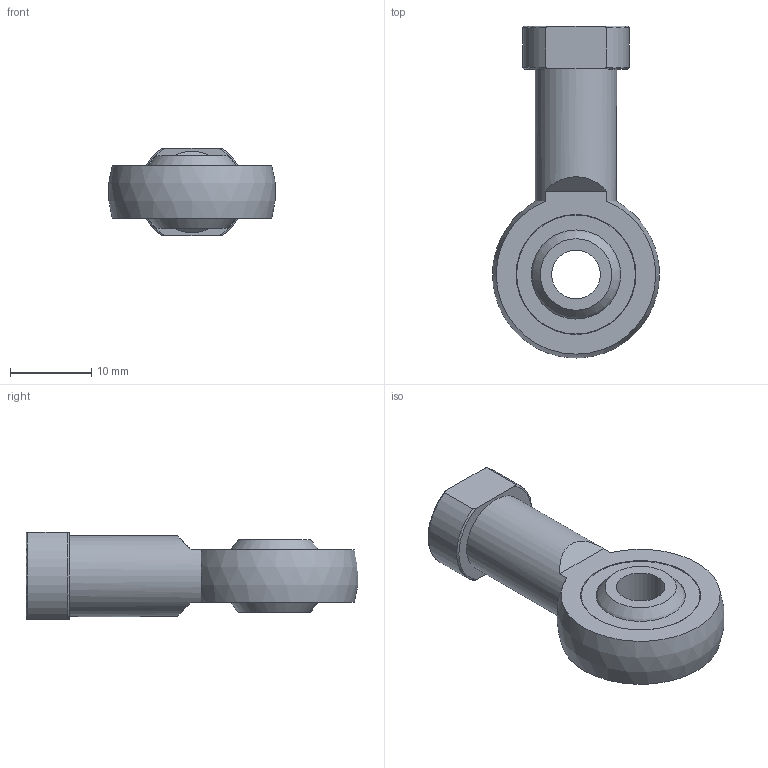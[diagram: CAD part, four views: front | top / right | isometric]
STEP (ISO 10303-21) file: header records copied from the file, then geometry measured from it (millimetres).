
FILE_DESCRIPTION(/* description */ (''),/* implementation_level */ '2;1');
FILE_NAME(/* name */ 'LAOAA-M6.step',/* time_stamp */ '2020-05-27T11:05:43+02:00',/* author */ ('octogon GmbH'),/* organization */ ('octogon GmbH'),/* preprocessor_version */ 'ST-DEVELOPER v15.6',/* originating_system */ 'Autodesk Inventor LT ',/* authorisation */ '');
FILE_SCHEMA (('AUTOMOTIVE_DESIGN { 1 0 10303 214 3 1 1 }'));
Length unit declared in the file: millimetre
Products named in the file (1): LAOAA-M6 rod end, stainless steel, female thread M6
Bounding box: 20.58 x 40.94 x 10.8 mm (x, y, z)
Volume: 3743.1 mm3; surface area: 3398.3 mm2
Topology: 3 solids, 3 shells, 28 faces, 63 edges, 42 vertices
Faces by surface type: plane 12, cylinder 7, torus 4, sphere 3, cone 2
Full cylindrical faces by diameter (mm): 4.917 x1, 6 x1, 10 x1, 11 x1, 14.8 x1
Entity records: 804 total; most frequent: CARTESIAN_POINT 189, DIRECTION 128, ORIENTED_EDGE 100, AXIS2_PLACEMENT_3D 57, EDGE_CURVE 50, EDGE_LOOP 44, VERTEX_POINT 38, FACE_OUTER_BOUND 28
